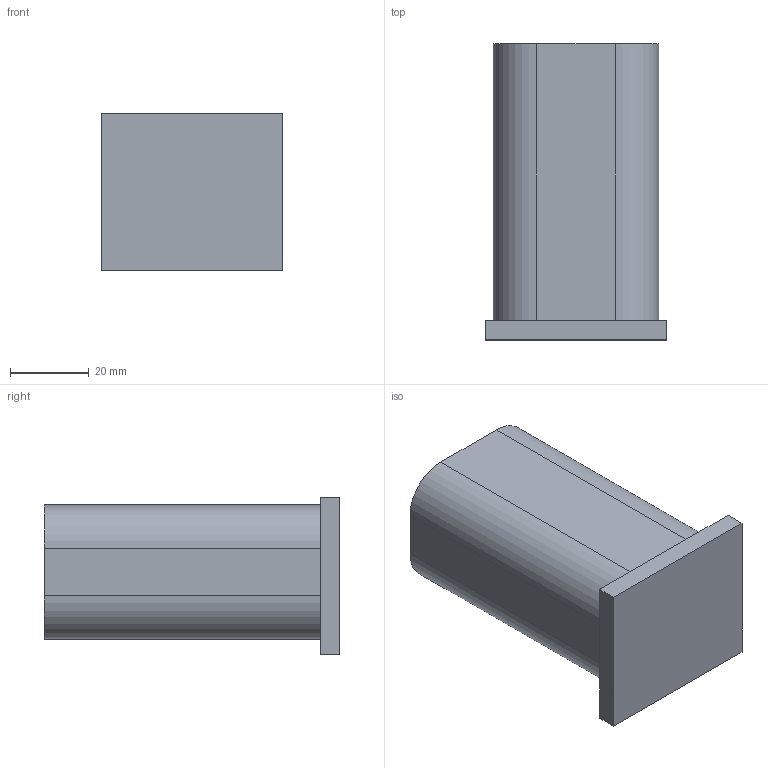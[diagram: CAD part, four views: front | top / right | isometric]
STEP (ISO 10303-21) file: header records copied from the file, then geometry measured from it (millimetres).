
FILE_DESCRIPTION( ( 'STEP Version 203' ), '1' );
FILE_NAME( ' ', '11/30/10 15:36:27', ( 'aho' ), ( ' ' ), 'PSStep 14.0', 'DesignModeler STEP Output', ' ' );
FILE_SCHEMA( ( 'AUTOMOTIVE_DESIGN { 1 0 10303 214 1 1 1 1 }' ) );
Length unit declared in the file: metre
Products named in the file (4): Bracket; Core; Insulator; Coil
Bounding box: 46 x 75 x 40 mm (x, y, z)
Volume: 101889.3 mm3; surface area: 44542.2 mm2
Topology: 4 solids, 4 shells, 52 faces, 132 edges, 88 vertices
Faces by surface type: plane 32, cylinder 20
Entity records: 1629 total; most frequent: DIRECTION 284, CARTESIAN_POINT 276, ORIENTED_EDGE 264, EDGE_CURVE 132, AXIS2_PLACEMENT_3D 96, LINE 92, VECTOR 92, VERTEX_POINT 88
